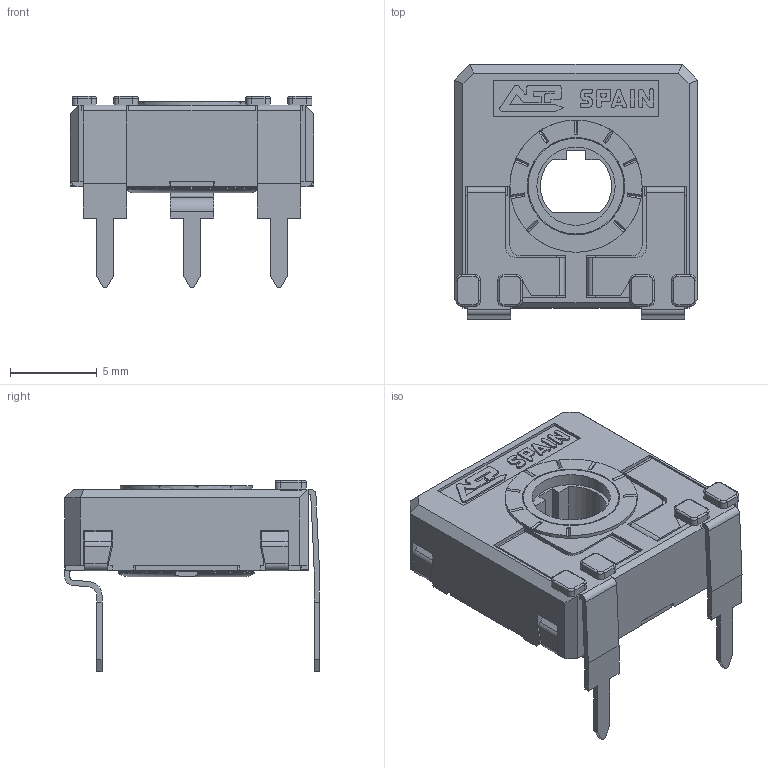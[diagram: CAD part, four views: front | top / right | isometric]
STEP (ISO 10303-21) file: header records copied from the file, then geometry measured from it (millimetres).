
FILE_DESCRIPTION(/* description */ (''),/* implementation_level */ '2;1');
FILE_NAME(/* name */ 'C:\Users\CEM\Desktop\ENVIAR\TRANSICION 3D CATALOGOS\RS14TV12,5.stp',/* time_stamp */ '2025-12-10T11:29:36+01:00',/* author */ ('CEM'),/* organization */ (''),/* preprocessor_version */ 'ST-DEVELOPER v16.13',/* originating_system */ 'Autodesk Inventor 2018',/* authorisation */ '');
FILE_SCHEMA (('AUTOMOTIVE_DESIGN { 1 0 10303 214 3 1 1 }'));
Length unit declared in the file: millimetre
Products named in the file (1): CARCASA CA14 PGA
Bounding box: 14 x 14.65 x 11 mm (x, y, z)
Volume: 526.7 mm3; surface area: 1478.2 mm2
Topology: 1 solids, 1 shells, 683 faces, 1926 edges, 1240 vertices
Faces by surface type: plane 503, cylinder 143, torus 23, bspline 8, cone 6
Full cylindrical faces by diameter (mm): 4.5 x1, 5.5 x1, 5.6 x1, 5.752 x1, 6.8 x1, 7.6 x1
Entity records: 22158 total; most frequent: CARTESIAN_POINT 4044, ORIENTED_EDGE 3824, DIRECTION 3608, EDGE_CURVE 1912, LINE 1512, VECTOR 1512, VERTEX_POINT 1236, AXIS2_PLACEMENT_3D 1048
